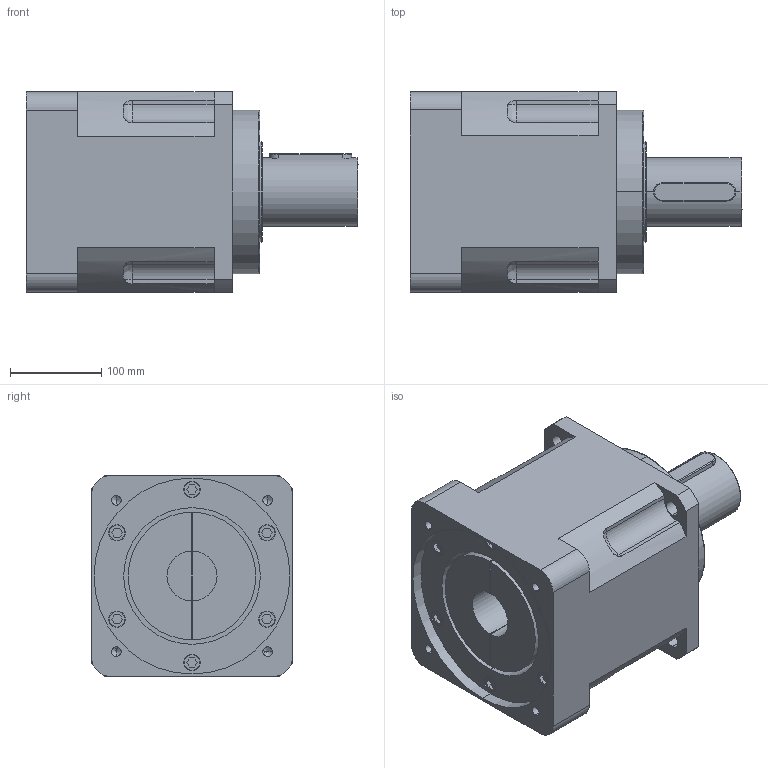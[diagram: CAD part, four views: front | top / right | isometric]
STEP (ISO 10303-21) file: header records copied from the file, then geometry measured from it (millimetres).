
FILE_DESCRIPTION (( 'STEP AP214' ), '1' );
FILE_NAME ('PAB220-L1-55-215-235-M12.STEP', '2019-08-22T01:03:08', ( '微软用户' ), ( '微软中国' ), 'SwSTEP 2.0', 'SolidWorks 2014', '' );
FILE_SCHEMA (( 'AUTOMOTIVE_DESIGN' ));
Length unit declared in the file: millimetre
Products named in the file (2): PAB220-L1-55-215-235-M12
Bounding box: 364.5 x 220 x 220 mm (x, y, z)
Volume: 10627362 mm3; surface area: 469539.6 mm2
Topology: 1 solids, 1 shells, 831 faces, 2329 edges, 1540 vertices
Faces by surface type: plane 660, cylinder 87, bspline 64, cone 12, torus 8
Entity records: 34242 total; most frequent: CARTESIAN_POINT 6270, ORIENTED_EDGE 4638, DIRECTION 3900, EDGE_CURVE 2319, LINE 1980, VECTOR 1980, VERTEX_POINT 1540, AXIS2_PLACEMENT_3D 960
